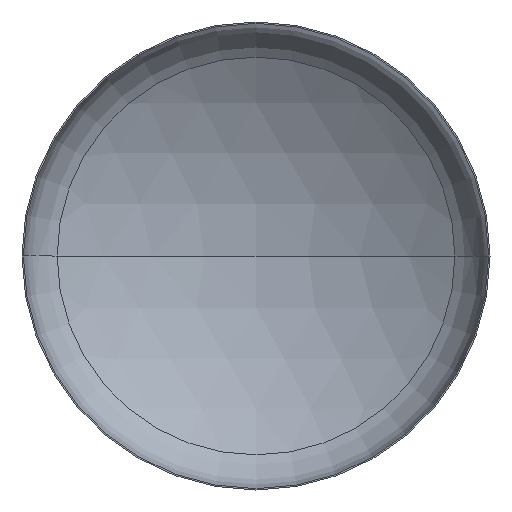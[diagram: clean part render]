
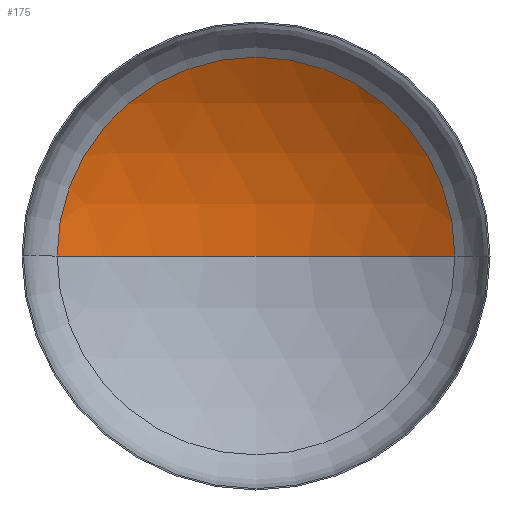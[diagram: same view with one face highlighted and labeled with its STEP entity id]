
A CAD part, front view. The second image highlights one B-rep face of the part: STEP entity #175.
In plain terms, the highlighted spherical face has radius 3040 mm.
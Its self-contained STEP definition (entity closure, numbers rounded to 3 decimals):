
#3 = AXIS2_PLACEMENT_3D ( 'NONE', #245, #242, #335 ) ;
#4 = AXIS2_PLACEMENT_3D ( 'NONE', #241, #237, #234 ) ;
#5 = VERTEX_POINT ( 'NONE', #203 ) ;
#9 = CARTESIAN_POINT ( 'NONE',  ( 0., 999.95, 0. ) ) ;
#17 = AXIS2_PLACEMENT_3D ( 'NONE', #341, #306, #307 ) ;
#20 = VERTEX_POINT ( 'NONE', #9 ) ;
#36 = AXIS2_PLACEMENT_3D ( 'NONE', #273, #278, #389 ) ;
#46 = VERTEX_POINT ( 'NONE', #262 ) ;
#73 = EDGE_LOOP ( 'NONE', ( #123, #128, #96 ) ) ;
#96 = ORIENTED_EDGE ( 'NONE', *, *, #346, .T. ) ;
#123 = ORIENTED_EDGE ( 'NONE', *, *, #327, .F. ) ;
#128 = ORIENTED_EDGE ( 'NONE', *, *, #349, .T. ) ;
#145 = SPHERICAL_SURFACE ( 'NONE', #36, 3040. ) ;
#175 = ADVANCED_FACE ( 'NONE', ( #272 ), #145, .F. ) ;
#187 = CIRCLE ( 'NONE', #4, 1614.729 ) ;
#203 = CARTESIAN_POINT ( 'NONE',  ( -1614.729, 535.654, 0. ) ) ;
#234 = DIRECTION ( 'NONE',  ( 1., 0., 0. ) ) ;
#237 = DIRECTION ( 'NONE',  ( 0., -1., 0. ) ) ;
#241 = CARTESIAN_POINT ( 'NONE',  ( 0., 535.654, 0. ) ) ;
#242 = DIRECTION ( 'NONE',  ( 0., 0., -1. ) ) ;
#245 = CARTESIAN_POINT ( 'NONE',  ( 0., -2040.05, 0. ) ) ;
#254 = CIRCLE ( 'NONE', #3, 3040. ) ;
#262 = CARTESIAN_POINT ( 'NONE',  ( 1614.729, 535.654, 0. ) ) ;
#272 = FACE_OUTER_BOUND ( 'NONE', #73, .T. ) ;
#273 = CARTESIAN_POINT ( 'NONE',  ( 0., -2040.05, 0. ) ) ;
#278 = DIRECTION ( 'NONE',  ( 0., 0., -1. ) ) ;
#306 = DIRECTION ( 'NONE',  ( 0., 0., 1. ) ) ;
#307 = DIRECTION ( 'NONE',  ( 1., 0., 0. ) ) ;
#327 = EDGE_CURVE ( 'NONE', #20, #5, #375, .T. ) ;
#335 = DIRECTION ( 'NONE',  ( -1., 0., 0. ) ) ;
#341 = CARTESIAN_POINT ( 'NONE',  ( 0., -2040.05, 0. ) ) ;
#346 = EDGE_CURVE ( 'NONE', #46, #5, #187, .T. ) ;
#349 = EDGE_CURVE ( 'NONE', #20, #46, #254, .T. ) ;
#375 = CIRCLE ( 'NONE', #17, 3040. ) ;
#389 = DIRECTION ( 'NONE',  ( -1., 0., 0. ) ) ;
